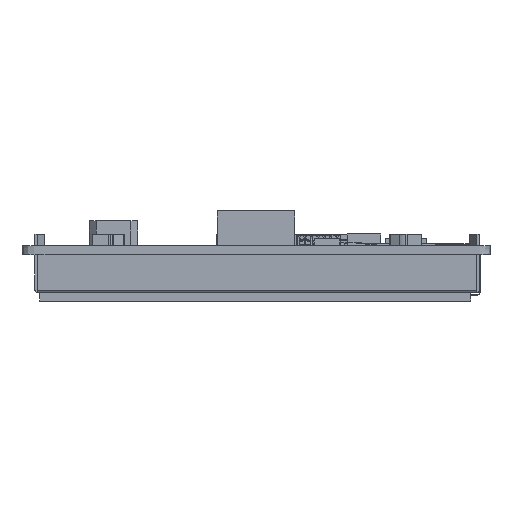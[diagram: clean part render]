
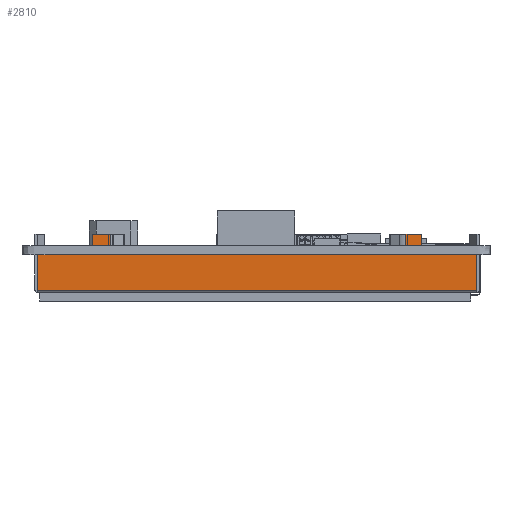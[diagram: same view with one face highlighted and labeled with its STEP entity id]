
A CAD part, left-side view. The second image highlights one B-rep face of the part: STEP entity #2810.
In plain terms, the highlighted planar face has unit normal (-1, 0, 0).
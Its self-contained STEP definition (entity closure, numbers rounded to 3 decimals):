
#2810=ADVANCED_FACE('',(#5021),#3825,.F.);
#3825=PLANE('',#27424);
#5021=FACE_OUTER_BOUND('',#6277,.T.);
#6277=EDGE_LOOP('',(#12674,#12675,#12676,#12677,#12678,#12679,#12680,#12681,
#12682,#12683,#12684,#12685,#12686,#12687,#12688,#12689));
#12674=ORIENTED_EDGE('',*,*,#19395,.F.);
#12675=ORIENTED_EDGE('',*,*,#19396,.T.);
#12676=ORIENTED_EDGE('',*,*,#19397,.T.);
#12677=ORIENTED_EDGE('',*,*,#19392,.T.);
#12678=ORIENTED_EDGE('',*,*,#19398,.T.);
#12679=ORIENTED_EDGE('',*,*,#19399,.F.);
#12680=ORIENTED_EDGE('',*,*,#19400,.T.);
#12681=ORIENTED_EDGE('',*,*,#19401,.F.);
#12682=ORIENTED_EDGE('',*,*,#19402,.F.);
#12683=ORIENTED_EDGE('',*,*,#19388,.T.);
#12684=ORIENTED_EDGE('',*,*,#19403,.T.);
#12685=ORIENTED_EDGE('',*,*,#19404,.T.);
#12686=ORIENTED_EDGE('',*,*,#19405,.F.);
#12687=ORIENTED_EDGE('',*,*,#19406,.F.);
#12688=ORIENTED_EDGE('',*,*,#19407,.F.);
#12689=ORIENTED_EDGE('',*,*,#19386,.T.);
#16110=VERTEX_POINT('',#39842);
#16112=VERTEX_POINT('',#39846);
#16113=VERTEX_POINT('',#39850);
#16115=VERTEX_POINT('',#39853);
#16117=VERTEX_POINT('',#39859);
#16119=VERTEX_POINT('',#39862);
#16121=VERTEX_POINT('',#39868);
#16122=VERTEX_POINT('',#39870);
#16123=VERTEX_POINT('',#39873);
#16124=VERTEX_POINT('',#39875);
#16125=VERTEX_POINT('',#39877);
#16126=VERTEX_POINT('',#39879);
#16127=VERTEX_POINT('',#39882);
#16128=VERTEX_POINT('',#39884);
#16129=VERTEX_POINT('',#39886);
#16130=VERTEX_POINT('',#39888);
#19386=EDGE_CURVE('',#16110,#16112,#22445,.T.);
#19388=EDGE_CURVE('',#16115,#16113,#22447,.T.);
#19392=EDGE_CURVE('',#16119,#16117,#22451,.T.);
#19395=EDGE_CURVE('',#16121,#16112,#22454,.T.);
#19396=EDGE_CURVE('',#16121,#16122,#22455,.T.);
#19397=EDGE_CURVE('',#16122,#16119,#22456,.T.);
#19398=EDGE_CURVE('',#16117,#16123,#22457,.T.);
#19399=EDGE_CURVE('',#16124,#16123,#22458,.T.);
#19400=EDGE_CURVE('',#16124,#16125,#22459,.T.);
#19401=EDGE_CURVE('',#16126,#16125,#22460,.T.);
#19402=EDGE_CURVE('',#16115,#16126,#22461,.T.);
#19403=EDGE_CURVE('',#16113,#16127,#22462,.T.);
#19404=EDGE_CURVE('',#16127,#16128,#22463,.T.);
#19405=EDGE_CURVE('',#16129,#16128,#22464,.T.);
#19406=EDGE_CURVE('',#16130,#16129,#22465,.T.);
#19407=EDGE_CURVE('',#16110,#16130,#22466,.T.);
#22445=LINE('',#39847,#25326);
#22447=LINE('',#39852,#25328);
#22451=LINE('',#39861,#25332);
#22454=LINE('',#39867,#25335);
#22455=LINE('',#39869,#25336);
#22456=LINE('',#39871,#25337);
#22457=LINE('',#39872,#25338);
#22458=LINE('',#39874,#25339);
#22459=LINE('',#39876,#25340);
#22460=LINE('',#39878,#25341);
#22461=LINE('',#39880,#25342);
#22462=LINE('',#39881,#25343);
#22463=LINE('',#39883,#25344);
#22464=LINE('',#39885,#25345);
#22465=LINE('',#39887,#25346);
#22466=LINE('',#39889,#25347);
#25326=VECTOR('',#32912,1.);
#25328=VECTOR('',#32916,1.);
#25332=VECTOR('',#32922,1.);
#25335=VECTOR('',#32927,1.);
#25336=VECTOR('',#32928,1.);
#25337=VECTOR('',#32929,1.);
#25338=VECTOR('',#32930,1.);
#25339=VECTOR('',#32931,1.);
#25340=VECTOR('',#32932,1.);
#25341=VECTOR('',#32933,1.);
#25342=VECTOR('',#32934,1.);
#25343=VECTOR('',#32935,1.);
#25344=VECTOR('',#32936,1.);
#25345=VECTOR('',#32937,1.);
#25346=VECTOR('',#32938,1.);
#25347=VECTOR('',#32939,1.);
#27424=AXIS2_PLACEMENT_3D('',#39890,#32940,#32941);
#32912=DIRECTION('',(0.,1.,0.));
#32916=DIRECTION('',(0.,1.,0.));
#32922=DIRECTION('',(0.,1.,0.));
#32927=DIRECTION('',(0.,0.,1.));
#32928=DIRECTION('',(0.,-1.,0.));
#32929=DIRECTION('',(0.,0.,1.));
#32930=DIRECTION('',(0.,0.,1.));
#32931=DIRECTION('',(0.,-1.,0.));
#32932=DIRECTION('',(0.,0.,-1.));
#32933=DIRECTION('',(0.,-1.,0.));
#32934=DIRECTION('',(0.,0.,1.));
#32935=DIRECTION('',(0.,0.,1.));
#32936=DIRECTION('',(0.,-1.,0.));
#32937=DIRECTION('',(0.,0.,-1.));
#32938=DIRECTION('',(0.,-1.,0.));
#32939=DIRECTION('',(0.,0.,1.));
#32940=DIRECTION('',(1.,0.,0.));
#32941=DIRECTION('',(0.,-1.,0.));
#39842=CARTESIAN_POINT('',(59.66,45.295,-1.6));
#39846=CARTESIAN_POINT('',(59.66,54.82,-1.6));
#39847=CARTESIAN_POINT('',(59.66,-21.2,-1.6));
#39850=CARTESIAN_POINT('',(59.66,42.295,-1.6));
#39852=CARTESIAN_POINT('',(59.66,-21.2,-1.6));
#39853=CARTESIAN_POINT('',(59.66,-8.635,-1.6));
#39859=CARTESIAN_POINT('',(59.66,-11.635,-1.6));
#39861=CARTESIAN_POINT('',(59.66,-21.2,-1.6));
#39862=CARTESIAN_POINT('',(59.66,-21.2,-1.6));
#39867=CARTESIAN_POINT('',(59.66,54.82,-8.1));
#39868=CARTESIAN_POINT('',(59.66,54.82,-7.7));
#39869=CARTESIAN_POINT('',(59.66,-21.2,-7.7));
#39870=CARTESIAN_POINT('',(59.66,-21.2,-7.7));
#39871=CARTESIAN_POINT('',(59.66,-21.2,-8.1));
#39872=CARTESIAN_POINT('',(59.66,-11.635,-1.6));
#39873=CARTESIAN_POINT('',(59.66,-11.635,2.));
#39874=CARTESIAN_POINT('',(59.66,-8.924,2.));
#39875=CARTESIAN_POINT('',(59.66,-8.924,2.));
#39876=CARTESIAN_POINT('',(59.66,-8.924,2.));
#39877=CARTESIAN_POINT('',(59.66,-8.924,0.));
#39878=CARTESIAN_POINT('',(59.66,-8.635,0.));
#39879=CARTESIAN_POINT('',(59.66,-8.635,0.));
#39880=CARTESIAN_POINT('',(59.66,-8.635,-1.6));
#39881=CARTESIAN_POINT('',(59.66,42.295,-1.6));
#39882=CARTESIAN_POINT('',(59.66,42.295,0.));
#39883=CARTESIAN_POINT('',(59.66,45.295,0.));
#39884=CARTESIAN_POINT('',(59.66,42.191,0.));
#39885=CARTESIAN_POINT('',(59.66,42.191,2.));
#39886=CARTESIAN_POINT('',(59.66,42.191,2.));
#39887=CARTESIAN_POINT('',(59.66,45.295,2.));
#39888=CARTESIAN_POINT('',(59.66,45.295,2.));
#39889=CARTESIAN_POINT('',(59.66,45.295,-1.6));
#39890=CARTESIAN_POINT('',(59.66,-21.2,-8.1));
